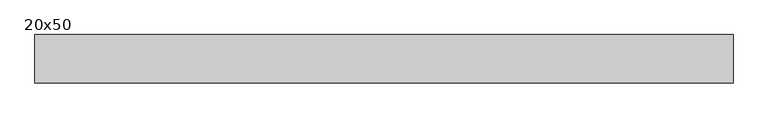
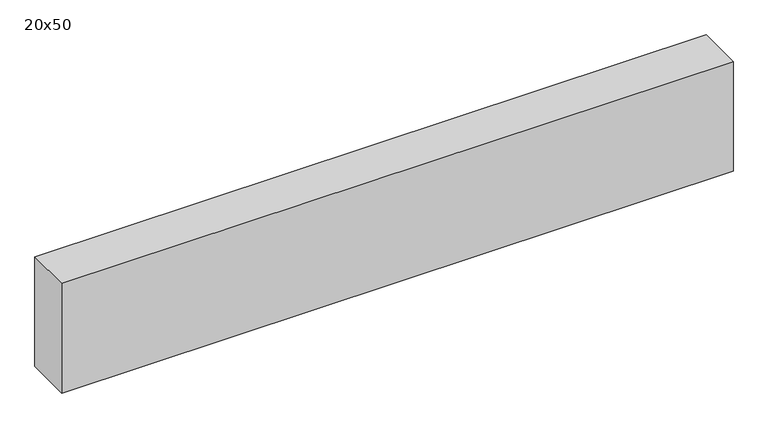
"""IFC4 building model written with IfcOpenShell, lengths in millimetres: beam geometry, C&L poutre béton gestion affichage par niveau : 20x50."""

from ifc_helpers import new_model, si_unit, frame, origin, place, context, project, spatial, polyline, outline, extrude, source, transform, mapped, element, save


def beam_20x50_d43e9d41(model_context):
    return source(origin(), model_context, "Body", "SweptSolid", [
        extrude(outline(polyline([(1447.5, 100.0), (1447.5, -100.0), (-1447.5, -100.0), (-1447.5, 100.0), (1447.5, 100.0)])), frame((0.0, 0.0, -250.0), z_axis=(0.0, 0.0, 1.0), x_axis=(1.0, 0.0, 0.0)), (0.0, 0.0, 1.0), 500.0),
    ])


if __name__ == "__main__":
    model = new_model("IFC4")
    model_context = context("Model", 3, world=origin())
    ifc_project = project(units=[si_unit("LENGTHUNIT", "METRE", prefix="MILLI")], contexts=[model_context])
    site = spatial("IfcSite", under=ifc_project)
    building = spatial("IfcBuilding", under=site)
    placement = place(None, origin())
    beam_20x50_shape = beam_20x50_d43e9d41(model_context)
    element("IfcBeam", 1, ObjectType="C&L poutre béton gestion affichage par niveau : 20x50", at=placement, inside=building, context=model_context, shape_type="MappedRepresentation", body=[
        mapped(beam_20x50_shape, transform((0.0, 0.0, 0.0), x_axis=(1.0, 0.0, 0.0), y_axis=(0.0, 1.0, 0.0), z_axis=(0.0, 0.0, 1.0))),
    ])
    save(model, "model.ifc")
